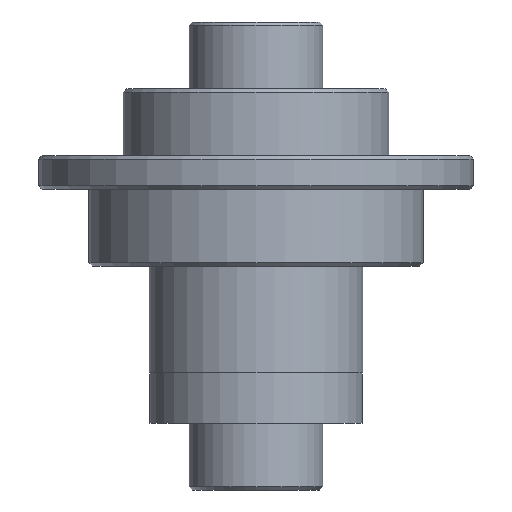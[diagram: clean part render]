
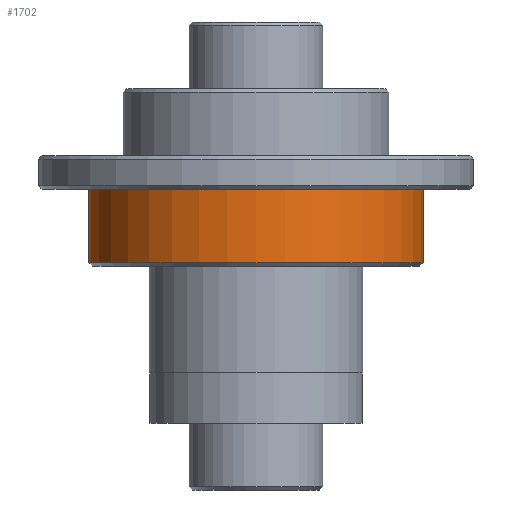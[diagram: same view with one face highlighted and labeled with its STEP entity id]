
A CAD part, front view. The second image highlights one B-rep face of the part: STEP entity #1702.
In plain terms, the highlighted cylindrical face has radius 50 mm (diameter 100 mm), a partial arc.
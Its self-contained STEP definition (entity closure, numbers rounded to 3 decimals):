
#76 = EDGE_LOOP ( 'NONE', ( #1862, #169, #1156, #2477 ) ) ;
#169 = ORIENTED_EDGE ( 'NONE', *, *, #1830, .T. ) ;
#284 = DIRECTION ( 'NONE',  ( 1., 0., 0. ) ) ;
#661 = CARTESIAN_POINT ( 'NONE',  ( 50., 0., -52. ) ) ;
#905 = DIRECTION ( 'NONE',  ( 0., 0., 1. ) ) ;
#1079 = EDGE_CURVE ( 'NONE', #1785, #1817, #2756, .T. ) ;
#1108 = EDGE_CURVE ( 'NONE', #2283, #1748, #2718, .T. ) ;
#1156 = ORIENTED_EDGE ( 'NONE', *, *, #1108, .T. ) ;
#1163 = DIRECTION ( 'NONE',  ( 0., 0., 1. ) ) ;
#1272 = CIRCLE ( 'NONE', #2423, 50. ) ;
#1286 = CIRCLE ( 'NONE', #2506, 50. ) ;
#1412 = CYLINDRICAL_SURFACE ( 'NONE', #2793, 50. ) ;
#1429 = CARTESIAN_POINT ( 'NONE',  ( -50., 0., 6.5 ) ) ;
#1445 = CARTESIAN_POINT ( 'NONE',  ( -50., 0., -52. ) ) ;
#1446 = FACE_OUTER_BOUND ( 'NONE', #76, .T. ) ;
#1688 = CARTESIAN_POINT ( 'NONE',  ( 0., 0., 6.5 ) ) ;
#1702 = ADVANCED_FACE ( 'NONE', ( #1446 ), #1412, .T. ) ;
#1748 = VERTEX_POINT ( 'NONE', #3128 ) ;
#1785 = VERTEX_POINT ( 'NONE', #1445 ) ;
#1817 = VERTEX_POINT ( 'NONE', #2349 ) ;
#1830 = EDGE_CURVE ( 'NONE', #1785, #2283, #1286, .T. ) ;
#1835 = EDGE_CURVE ( 'NONE', #1817, #1748, #1272, .T. ) ;
#1862 = ORIENTED_EDGE ( 'NONE', *, *, #1079, .F. ) ;
#1904 = DIRECTION ( 'NONE',  ( 0., 0., 1. ) ) ;
#1933 = DIRECTION ( 'NONE',  ( 0., 0., 1. ) ) ;
#1978 = DIRECTION ( 'NONE',  ( 0., 0., 1. ) ) ;
#2283 = VERTEX_POINT ( 'NONE', #661 ) ;
#2349 = CARTESIAN_POINT ( 'NONE',  ( -50., 0., -30. ) ) ;
#2374 = CARTESIAN_POINT ( 'NONE',  ( 0., 0., -30. ) ) ;
#2423 = AXIS2_PLACEMENT_3D ( 'NONE', #2374, #905, #2587 ) ;
#2477 = ORIENTED_EDGE ( 'NONE', *, *, #1835, .F. ) ;
#2506 = AXIS2_PLACEMENT_3D ( 'NONE', #3165, #1978, #284 ) ;
#2548 = CARTESIAN_POINT ( 'NONE',  ( 50., 0., 6.5 ) ) ;
#2587 = DIRECTION ( 'NONE',  ( 1., 0., 0. ) ) ;
#2718 = LINE ( 'NONE', #2548, #2721 ) ;
#2721 = VECTOR ( 'NONE', #1163, 1000. ) ;
#2756 = LINE ( 'NONE', #1429, #2781 ) ;
#2781 = VECTOR ( 'NONE', #1904, 1000. ) ;
#2793 = AXIS2_PLACEMENT_3D ( 'NONE', #1688, #1933, #2947 ) ;
#2947 = DIRECTION ( 'NONE',  ( 1., 0., 0. ) ) ;
#3128 = CARTESIAN_POINT ( 'NONE',  ( 50., 0., -30. ) ) ;
#3165 = CARTESIAN_POINT ( 'NONE',  ( 0., 0., -52. ) ) ;
